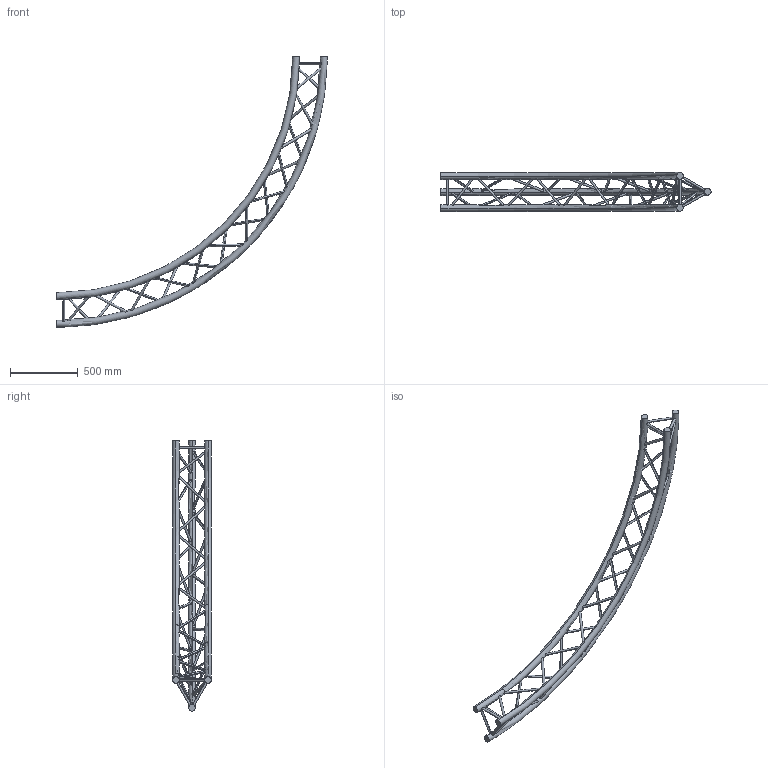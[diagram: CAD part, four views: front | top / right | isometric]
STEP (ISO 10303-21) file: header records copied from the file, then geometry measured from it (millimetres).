
FILE_DESCRIPTION (( 'STEP AP203' ), '1' );
FILE_NAME ('SXC29400PE.STEP', '2009-10-21T09:34:20', ( 'CEDIA' ), ( 'CEDIA INDUSTRIE' ), 'SwSTEP 2.0', 'SolidWorks 2009', '' );
FILE_SCHEMA (( 'CONFIG_CONTROL_DESIGN' ));
Length unit declared in the file: millimetre
Products named in the file (1): SXC29400PE
Bounding box: 2000 x 287 x 2000 mm (x, y, z)
Volume: 19117963.8 mm3; surface area: 1878537.1 mm2
Topology: 1 solids, 1 shells, 96 faces, 270 edges, 180 vertices
Faces by surface type: cylinder 84, torus 6, plane 6
Entity records: 10745 total; most frequent: CARTESIAN_POINT 8339, ORIENTED_EDGE 540, DIRECTION 314, EDGE_CURVE 270, VERTEX_POINT 180, EDGE_LOOP 180, B_SPLINE_CURVE_WITH_KNOTS 168, AXIS2_PLACEMENT_3D 115
